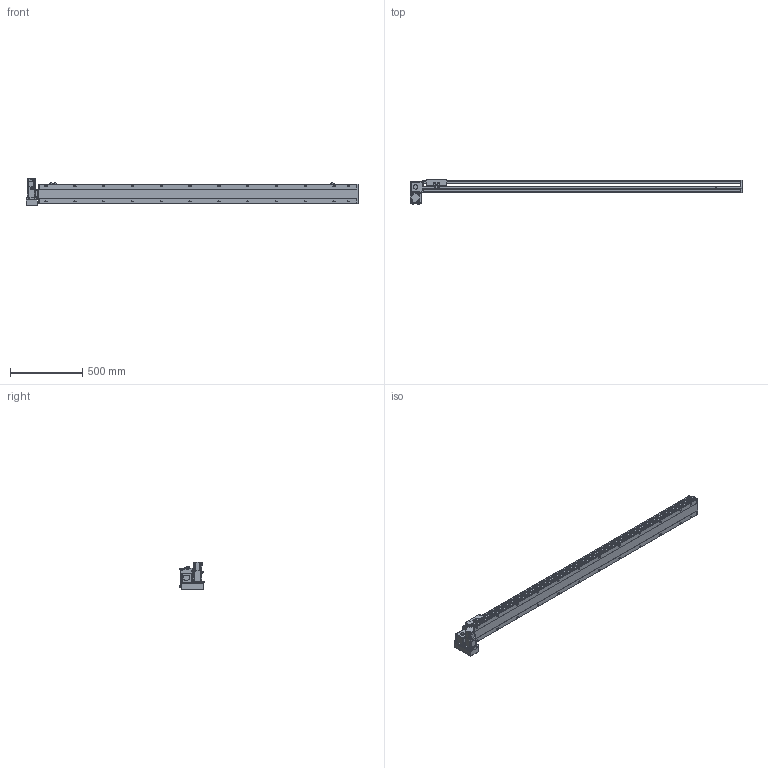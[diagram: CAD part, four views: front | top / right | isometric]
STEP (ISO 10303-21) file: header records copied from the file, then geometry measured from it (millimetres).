
FILE_DESCRIPTION( ( 'STEP AP214' ), '1' );
FILE_NAME( 'x:/temp/worker_6/temp/exporttempdir_5396_105_Gftje/format_0/PBS140S-P40-S1950-LD-T40-C1-N(0).stp', '2022-06-09T00:26:13', ( 'License CC BY-ND 4.0' ), ( 'CADENAS' ), ' ', 'PARTsolutions', ' ' );
FILE_SCHEMA( ( 'AUTOMOTIVE_DESIGN { 1 0 10303 214 1 1 1 1 }' ) );
Length unit declared in the file: millimetre
Products named in the file (7): PBS140S-P40-S1950-LD-T40-C1-N(0); _PBS140S-S1950()_body; _PBS140ST-LD_motors; _T40-p1; _PBS140S_sliser; _PBS140S_plant; _PBS140S_sensor
Assembly tree (8 placements, depth 2):
  PBS140S-P40-S1950-LD-T40-C1-N(0)
    _PBS140S-S1950()_body
    _PBS140ST-LD_motors
    _T40-p1
    _PBS140S_sliser
    _PBS140S_plant
    _PBS140S_sensor  x3
Bounding box: 2304 x 172.5 x 189.7 mm (x, y, z)
Volume: 11364876.5 mm3; surface area: 1927254.2 mm2
Topology: 8 solids, 8 shells, 1163 faces, 3071 edges, 2009 vertices
Faces by surface type: plane 726, cylinder 377, cone 50, sphere 8, torus 2
Full cylindrical faces by diameter (mm): 3.242 x4, 4 x2, 4.134 x4, 4.4 x8, 4.5 x2, 4.8 x4, 4.917 x32, 5.5 x7, 6 x2, 7 x26, 7.5 x8, 8 x12, 8.5 x4, 10.5 x24, 14 x1, 30 x2, 50 x2
Entity records: 42904 total; most frequent: CARTESIAN_POINT 7078, DIRECTION 5628, ORIENTED_EDGE 5302, EDGE_CURVE 2651, AXIS2_PLACEMENT_3D 1979, VERTEX_POINT 1849, LINE 1670, VECTOR 1670
